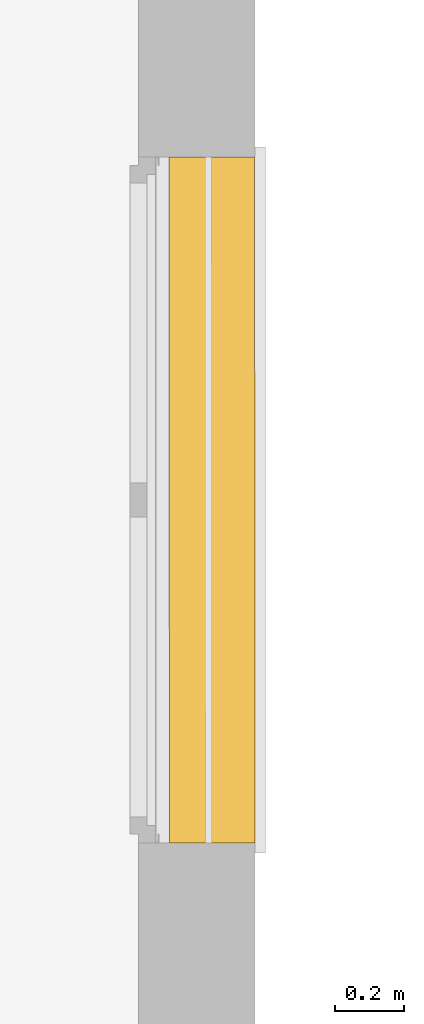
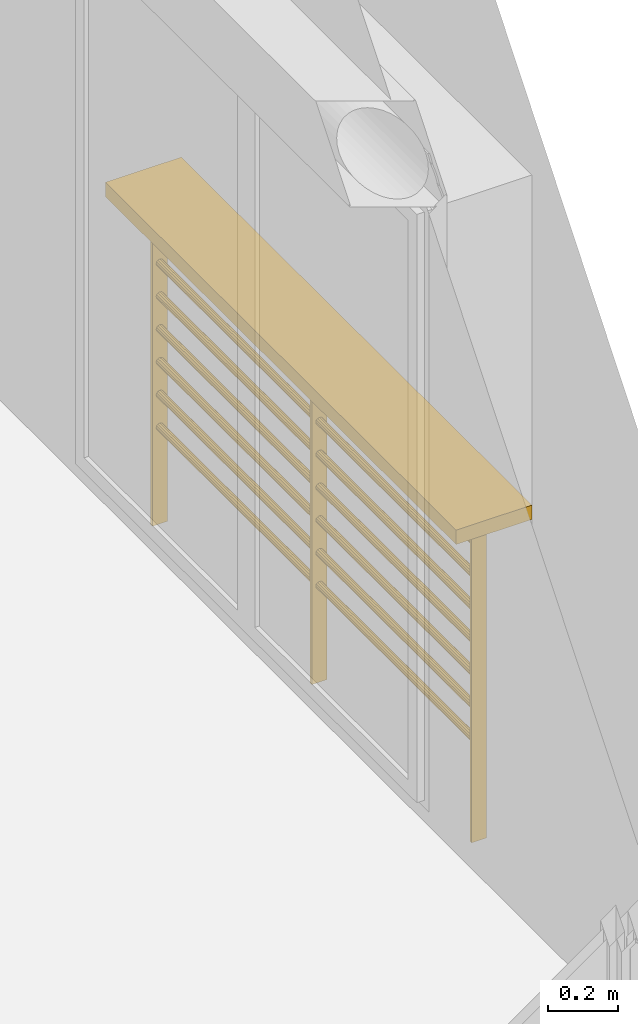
# One storey, part 96 of 164: 1 railing.
"""IFC2X3 building model written with IfcOpenShell, lengths in millimetres."""

from ifc_helpers import new_model, entity, si_unit, converted_unit, derived_unit, money_unit, direction, frame, origin_with_axes, place, context, subcontext, project, spatial, faceted_brep, source, transform, mapped, type_object, element, save


model = new_model("IFC2X3")

# Units and contexts
model_context = context("Model", 3, precision=0.01, world=origin_with_axes(), true_north=direction((0.0, 1.0)))
body_context = subcontext(model_context, "Body", "Model", "MODEL_VIEW")
ifc_project = project(units=[si_unit("LENGTHUNIT", "METRE", prefix="MILLI"), si_unit("AREAUNIT", "SQUARE_METRE"), si_unit("VOLUMEUNIT", "CUBIC_METRE"), converted_unit("PLANEANGLEUNIT", "DEGREE", entity("IfcPlaneAngleMeasure", 0.0174532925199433), si_unit("PLANEANGLEUNIT", "RADIAN"), dimensions=[0, 0, 0, 0, 0, 0, 0]), money_unit("USD"), converted_unit("TIMEUNIT", "Year", entity("IfcTimeMeasure", 31557600.0), si_unit("TIMEUNIT", "SECOND"), dimensions=[0, 0, 1, 0, 0, 0, 0]), si_unit("MASSUNIT", "GRAM", prefix="KILO"), si_unit("THERMODYNAMICTEMPERATUREUNIT", "DEGREE_CELSIUS"), si_unit("LUMINOUSINTENSITYUNIT", "LUMEN"), si_unit("ENERGYUNIT", "JOULE", prefix="MEGA"), derived_unit("THERMALCONDUCTANCEUNIT", [(si_unit("POWERUNIT", "WATT"), 1), (si_unit("LENGTHUNIT", "METRE"), -1), (si_unit("THERMODYNAMICTEMPERATUREUNIT", "KELVIN"), -1)]), derived_unit("SPECIFICHEATCAPACITYUNIT", [(si_unit("ENERGYUNIT", "JOULE"), 1), (si_unit("MASSUNIT", "GRAM", prefix="KILO"), -1), (si_unit("THERMODYNAMICTEMPERATUREUNIT", "KELVIN"), -1)]), derived_unit("MASSDENSITYUNIT", [(si_unit("MASSUNIT", "GRAM", prefix="KILO"), 1), (si_unit("VOLUMEUNIT", "CUBIC_METRE"), -1)])], contexts=[model_context])

# Site, building, storey
site_placement = place(None, origin_with_axes())
site = spatial("IfcSite", under=ifc_project, at=site_placement, Name="Site", CompositionType="ELEMENT")
building_placement = place(site_placement, origin_with_axes())
building = spatial("IfcBuilding", under=site, at=building_placement, Name="Bâtiment", CompositionType="ELEMENT")
storey_placement = place(building_placement, frame((0.0, 0.0, 5750.0), z_axis=(0.0, 0.0, 1.0), x_axis=(1.0, 0.0, 0.0)))
storey = spatial("IfcBuildingStorey", under=building, at=storey_placement, Name="Etage1", CompositionType="ELEMENT", Elevation=5750.0)

# Railing
railing_type = type_object("IfcRailingType", Name="Cadre avec câble 01 20", PredefinedType="NOTDEFINED")
shared_shape = source(origin_with_axes(), body_context, "Body", "Brep", [
    faceted_brep([(0.0, 125.0, 950.0), (0.0, 125.0, 1000.0), (0.0, -125.0, 1000.0), (0.0, -125.0, 950.0), (-1999.999999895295, 125.0, 950.0), (-1999.999999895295, 125.0, 1000.0), (-1999.999999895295, -125.0, 1000.0), (-1999.999999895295, -125.0, 950.0)], [[[0, 1, 2, 3]], [[4, 5, 1, 0]], [[1, 5, 6, 2]], [[3, 2, 6, 7]], [[0, 3, 7, 4]], [[7, 6, 5, 4]]]),
    faceted_brep([(-84.99999999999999, -25.0, -176.0), (-84.99999999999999, -25.0, 950.0), (-95.0, -25.0, 950.0), (-95.0, -25.0, -176.0), (-84.99999999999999, 25.0, -176.0), (-84.99999999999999, 25.0, 950.0), (-95.0, 25.0, 950.0), (-95.0, 25.0, -176.0)], [[[0, 1, 2, 3]], [[4, 5, 1, 0]], [[1, 5, 6, 2]], [[3, 2, 6, 7]], [[0, 3, 7, 4]], [[7, 6, 5, 4]]]),
    faceted_brep([(-994.9999999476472, -25.0, -176.0), (-994.9999999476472, -25.0, 950.0), (-1004.999999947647, -25.0, 950.0), (-1004.999999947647, -25.0, -176.0), (-994.9999999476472, 25.0, -176.0), (-994.9999999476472, 25.0, 950.0), (-1004.999999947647, 25.0, 950.0), (-1004.999999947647, 25.0, -176.0)], [[[0, 1, 2, 3]], [[4, 5, 1, 0]], [[1, 5, 6, 2]], [[3, 2, 6, 7]], [[0, 3, 7, 4]], [[7, 6, 5, 4]]]),
    faceted_brep([(-1904.999999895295, -25.0, -176.0), (-1904.999999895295, -25.0, 950.0), (-1914.999999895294, -25.0, 950.0), (-1914.999999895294, -25.0, -176.0), (-1904.999999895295, 25.0, -176.0), (-1904.999999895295, 25.0, 950.0), (-1914.999999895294, 25.0, 950.0), (-1914.999999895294, 25.0, -176.0)], [[[0, 1, 2, 3]], [[4, 5, 1, 0]], [[1, 5, 6, 2]], [[3, 2, 6, 7]], [[0, 3, 7, 4]], [[7, 6, 5, 4]]]),
    faceted_brep([(-994.9999999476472, 10.82531754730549, 168.7500000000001), (-95.0, 10.82531754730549, 168.75), (-95.0, 12.5, 162.5), (-994.9999999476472, 12.5, 162.5000000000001), (-994.9999999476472, 6.250000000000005, 173.3253175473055), (-95.0, 6.250000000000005, 173.3253175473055), (-95.0, 0.0, 175.0), (-95.0, -6.249999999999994, 173.3253175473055), (-95.0, -10.82531754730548, 168.75), (-95.0, -12.5, 162.5), (-95.0, -10.82531754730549, 156.25), (-95.0, -6.250000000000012, 151.6746824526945), (-95.0, 0.0, 150.0), (-95.0, 6.249999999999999, 151.6746824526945), (-95.0, 10.82531754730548, 156.25), (-994.9999999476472, 10.82531754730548, 156.2500000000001), (-994.9999999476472, 6.249999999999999, 151.6746824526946), (-994.9999999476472, 0.0, 150.0000000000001), (-994.9999999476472, -6.250000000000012, 151.6746824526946), (-994.9999999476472, -10.82531754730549, 156.2500000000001), (-994.9999999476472, -12.5, 162.5000000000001), (-994.9999999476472, -10.82531754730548, 168.7500000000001), (-994.9999999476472, -6.249999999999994, 173.3253175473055), (-994.9999999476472, 0.0, 175.0000000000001)], [[[0, 1, 2, 3]], [[4, 5, 1, 0]], [[1, 5, 6, 7, 8, 9, 10, 11, 12, 13, 14, 2]], [[3, 2, 14, 15]], [[15, 16, 17, 18, 19, 20, 21, 22, 23, 4, 0, 3]], [[23, 6, 5, 4]], [[22, 7, 6, 23]], [[21, 8, 7, 22]], [[20, 9, 8, 21]], [[19, 10, 9, 20]], [[18, 11, 10, 19]], [[17, 12, 11, 18]], [[16, 13, 12, 17]], [[15, 14, 13, 16]]]),
    faceted_brep([(-1004.999999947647, 10.82531754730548, 156.2500000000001), (-1904.999999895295, 10.82531754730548, 156.2500000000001), (-1904.999999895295, 12.5, 162.5000000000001), (-1004.999999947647, 12.5, 162.5000000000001), (-1004.999999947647, 6.249999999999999, 151.6746824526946), (-1904.999999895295, 6.249999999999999, 151.6746824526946), (-1904.999999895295, 0.0, 150.0000000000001), (-1904.999999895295, -6.250000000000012, 151.6746824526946), (-1904.999999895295, -10.82531754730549, 156.2500000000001), (-1904.999999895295, -12.5, 162.5000000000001), (-1904.999999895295, -10.82531754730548, 168.7500000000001), (-1904.999999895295, -6.249999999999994, 173.3253175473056), (-1904.999999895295, 0.0, 175.0000000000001), (-1904.999999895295, 6.250000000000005, 173.3253175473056), (-1904.999999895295, 10.82531754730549, 168.7500000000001), (-1004.999999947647, 10.82531754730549, 168.7500000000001), (-1004.999999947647, 6.250000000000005, 173.3253175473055), (-1004.999999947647, 0.0, 175.0000000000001), (-1004.999999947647, -6.249999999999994, 173.3253175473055), (-1004.999999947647, -10.82531754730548, 168.7500000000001), (-1004.999999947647, -12.5, 162.5000000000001), (-1004.999999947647, -10.82531754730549, 156.2500000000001), (-1004.999999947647, -6.250000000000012, 151.6746824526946), (-1004.999999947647, 0.0, 150.0000000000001)], [[[0, 1, 2, 3]], [[4, 5, 1, 0]], [[1, 5, 6, 7, 8, 9, 10, 11, 12, 13, 14, 2]], [[3, 2, 14, 15]], [[15, 16, 17, 18, 19, 20, 21, 22, 23, 4, 0, 3]], [[23, 6, 5, 4]], [[22, 7, 6, 23]], [[21, 8, 7, 22]], [[20, 9, 8, 21]], [[19, 10, 9, 20]], [[18, 11, 10, 19]], [[17, 12, 11, 18]], [[16, 13, 12, 17]], [[15, 14, 13, 16]]]),
    faceted_brep([(-994.9999999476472, 10.82531754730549, 283.0357142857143), (-95.0, 10.82531754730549, 283.0357142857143), (-95.0, 12.5, 276.7857142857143), (-994.9999999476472, 12.5, 276.7857142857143), (-994.9999999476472, 6.250000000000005, 287.6110318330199), (-95.0, 6.250000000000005, 287.6110318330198), (-95.0, 0.0, 289.2857142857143), (-95.0, -6.249999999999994, 287.6110318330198), (-95.0, -10.82531754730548, 283.0357142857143), (-95.0, -12.5, 276.7857142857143), (-95.0, -10.82531754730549, 270.5357142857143), (-95.0, -6.250000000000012, 265.9603967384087), (-95.0, 0.0, 264.2857142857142), (-95.0, 6.249999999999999, 265.9603967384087), (-95.0, 10.82531754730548, 270.5357142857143), (-994.9999999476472, 10.82531754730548, 270.5357142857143), (-994.9999999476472, 6.249999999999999, 265.9603967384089), (-994.9999999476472, 0.0, 264.2857142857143), (-994.9999999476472, -6.250000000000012, 265.9603967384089), (-994.9999999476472, -10.82531754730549, 270.5357142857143), (-994.9999999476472, -12.5, 276.7857142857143), (-994.9999999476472, -10.82531754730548, 283.0357142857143), (-994.9999999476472, -6.249999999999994, 287.6110318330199), (-994.9999999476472, 0.0, 289.2857142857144)], [[[0, 1, 2, 3]], [[4, 5, 1, 0]], [[1, 5, 6, 7, 8, 9, 10, 11, 12, 13, 14, 2]], [[3, 2, 14, 15]], [[15, 16, 17, 18, 19, 20, 21, 22, 23, 4, 0, 3]], [[23, 6, 5, 4]], [[22, 7, 6, 23]], [[21, 8, 7, 22]], [[20, 9, 8, 21]], [[19, 10, 9, 20]], [[18, 11, 10, 19]], [[17, 12, 11, 18]], [[16, 13, 12, 17]], [[15, 14, 13, 16]]]),
    faceted_brep([(-1004.999999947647, 10.82531754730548, 270.5357142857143), (-1904.999999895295, 10.82531754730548, 270.5357142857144), (-1904.999999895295, 12.5, 276.7857142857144), (-1004.999999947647, 12.5, 276.7857142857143), (-1004.999999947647, 6.249999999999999, 265.9603967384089), (-1904.999999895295, 6.249999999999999, 265.9603967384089), (-1904.999999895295, 0.0, 264.2857142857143), (-1904.999999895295, -6.250000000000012, 265.9603967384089), (-1904.999999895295, -10.82531754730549, 270.5357142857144), (-1904.999999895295, -12.5, 276.7857142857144), (-1904.999999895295, -10.82531754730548, 283.0357142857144), (-1904.999999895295, -6.249999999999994, 287.6110318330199), (-1904.999999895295, 0.0, 289.2857142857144), (-1904.999999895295, 6.250000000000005, 287.6110318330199), (-1904.999999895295, 10.82531754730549, 283.0357142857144), (-1004.999999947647, 10.82531754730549, 283.0357142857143), (-1004.999999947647, 6.250000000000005, 287.6110318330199), (-1004.999999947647, 0.0, 289.2857142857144), (-1004.999999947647, -6.249999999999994, 287.6110318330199), (-1004.999999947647, -10.82531754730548, 283.0357142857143), (-1004.999999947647, -12.5, 276.7857142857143), (-1004.999999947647, -10.82531754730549, 270.5357142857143), (-1004.999999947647, -6.250000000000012, 265.9603967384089), (-1004.999999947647, 0.0, 264.2857142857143)], [[[0, 1, 2, 3]], [[4, 5, 1, 0]], [[1, 5, 6, 7, 8, 9, 10, 11, 12, 13, 14, 2]], [[3, 2, 14, 15]], [[15, 16, 17, 18, 19, 20, 21, 22, 23, 4, 0, 3]], [[23, 6, 5, 4]], [[22, 7, 6, 23]], [[21, 8, 7, 22]], [[20, 9, 8, 21]], [[19, 10, 9, 20]], [[18, 11, 10, 19]], [[17, 12, 11, 18]], [[16, 13, 12, 17]], [[15, 14, 13, 16]]]),
    faceted_brep([(-994.9999999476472, 10.82531754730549, 397.3214285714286), (-95.0, 10.82531754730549, 397.3214285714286), (-95.0, 12.5, 391.0714285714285), (-994.9999999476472, 12.5, 391.0714285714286), (-994.9999999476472, 6.250000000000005, 401.896746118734), (-95.0, 6.250000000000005, 401.896746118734), (-95.0, 0.0, 403.5714285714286), (-95.0, -6.249999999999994, 401.896746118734), (-95.0, -10.82531754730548, 397.3214285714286), (-95.0, -12.5, 391.0714285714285), (-95.0, -10.82531754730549, 384.8214285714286), (-95.0, -6.250000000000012, 380.2461110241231), (-95.0, 0.0, 378.5714285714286), (-95.0, 6.249999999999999, 380.2461110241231), (-95.0, 10.82531754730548, 384.8214285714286), (-994.9999999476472, 10.82531754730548, 384.8214285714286), (-994.9999999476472, 6.249999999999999, 380.2461110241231), (-994.9999999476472, 0.0, 378.5714285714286), (-994.9999999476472, -6.250000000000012, 380.2461110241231), (-994.9999999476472, -10.82531754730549, 384.8214285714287), (-994.9999999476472, -12.5, 391.0714285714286), (-994.9999999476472, -10.82531754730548, 397.3214285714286), (-994.9999999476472, -6.249999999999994, 401.896746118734), (-994.9999999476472, 0.0, 403.5714285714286)], [[[0, 1, 2, 3]], [[4, 5, 1, 0]], [[1, 5, 6, 7, 8, 9, 10, 11, 12, 13, 14, 2]], [[3, 2, 14, 15]], [[15, 16, 17, 18, 19, 20, 21, 22, 23, 4, 0, 3]], [[23, 6, 5, 4]], [[22, 7, 6, 23]], [[21, 8, 7, 22]], [[20, 9, 8, 21]], [[19, 10, 9, 20]], [[18, 11, 10, 19]], [[17, 12, 11, 18]], [[16, 13, 12, 17]], [[15, 14, 13, 16]]]),
    faceted_brep([(-1004.999999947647, 10.82531754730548, 384.8214285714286), (-1904.999999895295, 10.82531754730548, 384.8214285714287), (-1904.999999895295, 12.5, 391.0714285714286), (-1004.999999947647, 12.5, 391.0714285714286), (-1004.999999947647, 6.249999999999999, 380.2461110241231), (-1904.999999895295, 6.249999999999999, 380.2461110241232), (-1904.999999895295, 0.0, 378.5714285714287), (-1904.999999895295, -6.250000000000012, 380.2461110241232), (-1904.999999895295, -10.82531754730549, 384.8214285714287), (-1904.999999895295, -12.5, 391.0714285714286), (-1904.999999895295, -10.82531754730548, 397.3214285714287), (-1904.999999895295, -6.249999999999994, 401.8967461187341), (-1904.999999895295, 0.0, 403.5714285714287), (-1904.999999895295, 6.250000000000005, 401.8967461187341), (-1904.999999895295, 10.82531754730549, 397.3214285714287), (-1004.999999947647, 10.82531754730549, 397.3214285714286), (-1004.999999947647, 6.250000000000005, 401.896746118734), (-1004.999999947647, 0.0, 403.5714285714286), (-1004.999999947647, -6.249999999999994, 401.896746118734), (-1004.999999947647, -10.82531754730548, 397.3214285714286), (-1004.999999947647, -12.5, 391.0714285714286), (-1004.999999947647, -10.82531754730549, 384.8214285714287), (-1004.999999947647, -6.250000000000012, 380.2461110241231), (-1004.999999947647, 0.0, 378.5714285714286)], [[[0, 1, 2, 3]], [[4, 5, 1, 0]], [[1, 5, 6, 7, 8, 9, 10, 11, 12, 13, 14, 2]], [[3, 2, 14, 15]], [[15, 16, 17, 18, 19, 20, 21, 22, 23, 4, 0, 3]], [[23, 6, 5, 4]], [[22, 7, 6, 23]], [[21, 8, 7, 22]], [[20, 9, 8, 21]], [[19, 10, 9, 20]], [[18, 11, 10, 19]], [[17, 12, 11, 18]], [[16, 13, 12, 17]], [[15, 14, 13, 16]]]),
    faceted_brep([(-994.9999999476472, 10.82531754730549, 511.6071428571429), (-95.0, 10.82531754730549, 511.6071428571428), (-95.0, 12.5, 505.3571428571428), (-994.9999999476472, 12.5, 505.3571428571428), (-994.9999999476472, 6.250000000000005, 516.1824604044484), (-95.0, 6.250000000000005, 516.1824604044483), (-95.0, 0.0, 517.8571428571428), (-95.0, -6.249999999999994, 516.1824604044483), (-95.0, -10.82531754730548, 511.6071428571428), (-95.0, -12.5, 505.3571428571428), (-95.0, -10.82531754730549, 499.1071428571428), (-95.0, -6.250000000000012, 494.5318253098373), (-95.0, 0.0, 492.8571428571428), (-95.0, 6.249999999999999, 494.5318253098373), (-95.0, 10.82531754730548, 499.1071428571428), (-994.9999999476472, 10.82531754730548, 499.1071428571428), (-994.9999999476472, 6.249999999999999, 494.5318253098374), (-994.9999999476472, 0.0, 492.8571428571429), (-994.9999999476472, -6.250000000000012, 494.5318253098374), (-994.9999999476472, -10.82531754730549, 499.1071428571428), (-994.9999999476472, -12.5, 505.3571428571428), (-994.9999999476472, -10.82531754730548, 511.6071428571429), (-994.9999999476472, -6.249999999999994, 516.1824604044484), (-994.9999999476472, 0.0, 517.8571428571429)], [[[0, 1, 2, 3]], [[4, 5, 1, 0]], [[1, 5, 6, 7, 8, 9, 10, 11, 12, 13, 14, 2]], [[3, 2, 14, 15]], [[15, 16, 17, 18, 19, 20, 21, 22, 23, 4, 0, 3]], [[23, 6, 5, 4]], [[22, 7, 6, 23]], [[21, 8, 7, 22]], [[20, 9, 8, 21]], [[19, 10, 9, 20]], [[18, 11, 10, 19]], [[17, 12, 11, 18]], [[16, 13, 12, 17]], [[15, 14, 13, 16]]]),
    faceted_brep([(-1004.999999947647, 10.82531754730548, 499.1071428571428), (-1904.999999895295, 10.82531754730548, 499.1071428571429), (-1904.999999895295, 12.5, 505.3571428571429), (-1004.999999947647, 12.5, 505.3571428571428), (-1004.999999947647, 6.249999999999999, 494.5318253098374), (-1904.999999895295, 6.249999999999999, 494.5318253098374), (-1904.999999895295, 0.0, 492.8571428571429), (-1904.999999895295, -6.250000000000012, 494.5318253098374), (-1904.999999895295, -10.82531754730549, 499.1071428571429), (-1904.999999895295, -12.5, 505.3571428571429), (-1904.999999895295, -10.82531754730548, 511.6071428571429), (-1904.999999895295, -6.249999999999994, 516.1824604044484), (-1904.999999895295, 0.0, 517.8571428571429), (-1904.999999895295, 6.250000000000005, 516.1824604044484), (-1904.999999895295, 10.82531754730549, 511.6071428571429), (-1004.999999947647, 10.82531754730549, 511.6071428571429), (-1004.999999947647, 6.250000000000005, 516.1824604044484), (-1004.999999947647, 0.0, 517.8571428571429), (-1004.999999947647, -6.249999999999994, 516.1824604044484), (-1004.999999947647, -10.82531754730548, 511.6071428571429), (-1004.999999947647, -12.5, 505.3571428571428), (-1004.999999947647, -10.82531754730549, 499.1071428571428), (-1004.999999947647, -6.250000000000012, 494.5318253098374), (-1004.999999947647, 0.0, 492.8571428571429)], [[[0, 1, 2, 3]], [[4, 5, 1, 0]], [[1, 5, 6, 7, 8, 9, 10, 11, 12, 13, 14, 2]], [[3, 2, 14, 15]], [[15, 16, 17, 18, 19, 20, 21, 22, 23, 4, 0, 3]], [[23, 6, 5, 4]], [[22, 7, 6, 23]], [[21, 8, 7, 22]], [[20, 9, 8, 21]], [[19, 10, 9, 20]], [[18, 11, 10, 19]], [[17, 12, 11, 18]], [[16, 13, 12, 17]], [[15, 14, 13, 16]]]),
    faceted_brep([(-994.9999999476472, 10.82531754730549, 625.8928571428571), (-95.0, 10.82531754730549, 625.892857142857), (-95.0, 12.5, 619.642857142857), (-994.9999999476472, 12.5, 619.6428571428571), (-994.9999999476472, 6.250000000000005, 630.4681746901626), (-95.0, 6.250000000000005, 630.4681746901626), (-95.0, 0.0, 632.1428571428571), (-95.0, -6.249999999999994, 630.4681746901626), (-95.0, -10.82531754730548, 625.892857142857), (-95.0, -12.5, 619.642857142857), (-95.0, -10.82531754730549, 613.3928571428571), (-95.0, -6.250000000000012, 608.8175395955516), (-95.0, 0.0, 607.1428571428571), (-95.0, 6.249999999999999, 608.8175395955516), (-95.0, 10.82531754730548, 613.3928571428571), (-994.9999999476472, 10.82531754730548, 613.3928571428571), (-994.9999999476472, 6.249999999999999, 608.8175395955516), (-994.9999999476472, 0.0, 607.1428571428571), (-994.9999999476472, -6.250000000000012, 608.8175395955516), (-994.9999999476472, -10.82531754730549, 613.3928571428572), (-994.9999999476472, -12.5, 619.6428571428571), (-994.9999999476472, -10.82531754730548, 625.8928571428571), (-994.9999999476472, -6.249999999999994, 630.4681746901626), (-994.9999999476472, 0.0, 632.1428571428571)], [[[0, 1, 2, 3]], [[4, 5, 1, 0]], [[1, 5, 6, 7, 8, 9, 10, 11, 12, 13, 14, 2]], [[3, 2, 14, 15]], [[15, 16, 17, 18, 19, 20, 21, 22, 23, 4, 0, 3]], [[23, 6, 5, 4]], [[22, 7, 6, 23]], [[21, 8, 7, 22]], [[20, 9, 8, 21]], [[19, 10, 9, 20]], [[18, 11, 10, 19]], [[17, 12, 11, 18]], [[16, 13, 12, 17]], [[15, 14, 13, 16]]]),
    faceted_brep([(-1004.999999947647, 10.82531754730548, 613.3928571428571), (-1904.999999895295, 10.82531754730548, 613.3928571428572), (-1904.999999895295, 12.5, 619.6428571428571), (-1004.999999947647, 12.5, 619.6428571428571), (-1004.999999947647, 6.249999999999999, 608.8175395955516), (-1904.999999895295, 6.249999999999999, 608.8175395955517), (-1904.999999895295, 0.0, 607.1428571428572), (-1904.999999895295, -6.250000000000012, 608.8175395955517), (-1904.999999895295, -10.82531754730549, 613.3928571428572), (-1904.999999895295, -12.5, 619.6428571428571), (-1904.999999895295, -10.82531754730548, 625.8928571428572), (-1904.999999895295, -6.249999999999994, 630.4681746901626), (-1904.999999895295, 0.0, 632.1428571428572), (-1904.999999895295, 6.250000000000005, 630.4681746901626), (-1904.999999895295, 10.82531754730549, 625.8928571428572), (-1004.999999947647, 10.82531754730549, 625.8928571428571), (-1004.999999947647, 6.250000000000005, 630.4681746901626), (-1004.999999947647, 0.0, 632.1428571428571), (-1004.999999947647, -6.249999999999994, 630.4681746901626), (-1004.999999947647, -10.82531754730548, 625.8928571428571), (-1004.999999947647, -12.5, 619.6428571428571), (-1004.999999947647, -10.82531754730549, 613.3928571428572), (-1004.999999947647, -6.250000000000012, 608.8175395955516), (-1004.999999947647, 0.0, 607.1428571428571)], [[[0, 1, 2, 3]], [[4, 5, 1, 0]], [[1, 5, 6, 7, 8, 9, 10, 11, 12, 13, 14, 2]], [[3, 2, 14, 15]], [[15, 16, 17, 18, 19, 20, 21, 22, 23, 4, 0, 3]], [[23, 6, 5, 4]], [[22, 7, 6, 23]], [[21, 8, 7, 22]], [[20, 9, 8, 21]], [[19, 10, 9, 20]], [[18, 11, 10, 19]], [[17, 12, 11, 18]], [[16, 13, 12, 17]], [[15, 14, 13, 16]]]),
    faceted_brep([(-994.9999999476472, 10.82531754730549, 740.1785714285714), (-95.0, 10.82531754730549, 740.1785714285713), (-95.0, 12.5, 733.9285714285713), (-994.9999999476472, 12.5, 733.9285714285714), (-994.9999999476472, 6.250000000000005, 744.7538889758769), (-95.0, 6.250000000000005, 744.7538889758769), (-95.0, 0.0, 746.4285714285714), (-95.0, -6.249999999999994, 744.7538889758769), (-95.0, -10.82531754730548, 740.1785714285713), (-95.0, -12.5, 733.9285714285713), (-95.0, -10.82531754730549, 727.6785714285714), (-95.0, -6.250000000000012, 723.1032538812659), (-95.0, 0.0, 721.4285714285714), (-95.0, 6.249999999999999, 723.1032538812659), (-95.0, 10.82531754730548, 727.6785714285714), (-994.9999999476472, 10.82531754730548, 727.6785714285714), (-994.9999999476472, 6.249999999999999, 723.1032538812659), (-994.9999999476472, 0.0, 721.4285714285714), (-994.9999999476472, -6.250000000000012, 723.1032538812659), (-994.9999999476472, -10.82531754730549, 727.6785714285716), (-994.9999999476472, -12.5, 733.9285714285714), (-994.9999999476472, -10.82531754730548, 740.1785714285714), (-994.9999999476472, -6.249999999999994, 744.7538889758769), (-994.9999999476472, 0.0, 746.4285714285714)], [[[0, 1, 2, 3]], [[4, 5, 1, 0]], [[1, 5, 6, 7, 8, 9, 10, 11, 12, 13, 14, 2]], [[3, 2, 14, 15]], [[15, 16, 17, 18, 19, 20, 21, 22, 23, 4, 0, 3]], [[23, 6, 5, 4]], [[22, 7, 6, 23]], [[21, 8, 7, 22]], [[20, 9, 8, 21]], [[19, 10, 9, 20]], [[18, 11, 10, 19]], [[17, 12, 11, 18]], [[16, 13, 12, 17]], [[15, 14, 13, 16]]]),
    faceted_brep([(-1004.999999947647, 10.82531754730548, 727.6785714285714), (-1904.999999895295, 10.82531754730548, 727.6785714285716), (-1904.999999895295, 12.5, 733.9285714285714), (-1004.999999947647, 12.5, 733.9285714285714), (-1004.999999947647, 6.249999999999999, 723.1032538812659), (-1904.999999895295, 6.249999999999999, 723.103253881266), (-1904.999999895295, 0.0, 721.4285714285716), (-1904.999999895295, -6.250000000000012, 723.103253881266), (-1904.999999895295, -10.82531754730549, 727.6785714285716), (-1904.999999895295, -12.5, 733.9285714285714), (-1904.999999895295, -10.82531754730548, 740.1785714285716), (-1904.999999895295, -6.249999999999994, 744.753888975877), (-1904.999999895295, 0.0, 746.4285714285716), (-1904.999999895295, 6.250000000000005, 744.753888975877), (-1904.999999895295, 10.82531754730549, 740.1785714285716), (-1004.999999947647, 10.82531754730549, 740.1785714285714), (-1004.999999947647, 6.250000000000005, 744.7538889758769), (-1004.999999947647, 0.0, 746.4285714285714), (-1004.999999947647, -6.249999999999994, 744.7538889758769), (-1004.999999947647, -10.82531754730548, 740.1785714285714), (-1004.999999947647, -12.5, 733.9285714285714), (-1004.999999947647, -10.82531754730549, 727.6785714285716), (-1004.999999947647, -6.250000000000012, 723.1032538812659), (-1004.999999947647, 0.0, 721.4285714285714)], [[[0, 1, 2, 3]], [[4, 5, 1, 0]], [[1, 5, 6, 7, 8, 9, 10, 11, 12, 13, 14, 2]], [[3, 2, 14, 15]], [[15, 16, 17, 18, 19, 20, 21, 22, 23, 4, 0, 3]], [[23, 6, 5, 4]], [[22, 7, 6, 23]], [[21, 8, 7, 22]], [[20, 9, 8, 21]], [[19, 10, 9, 20]], [[18, 11, 10, 19]], [[17, 12, 11, 18]], [[16, 13, 12, 17]], [[15, 14, 13, 16]]]),
    faceted_brep([(-994.9999999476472, 10.82531754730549, 854.4642857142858), (-95.0, 10.82531754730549, 854.4642857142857), (-95.0, 12.5, 848.2142857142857), (-994.9999999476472, 12.5, 848.2142857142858), (-994.9999999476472, 6.250000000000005, 859.0396032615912), (-95.0, 6.250000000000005, 859.0396032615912), (-95.0, 0.0, 860.7142857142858), (-95.0, -6.249999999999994, 859.0396032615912), (-95.0, -10.82531754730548, 854.4642857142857), (-95.0, -12.5, 848.2142857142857), (-95.0, -10.82531754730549, 841.9642857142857), (-95.0, -6.250000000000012, 837.3889681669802), (-95.0, 0.0, 835.7142857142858), (-95.0, 6.249999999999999, 837.3889681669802), (-95.0, 10.82531754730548, 841.9642857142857), (-994.9999999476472, 10.82531754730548, 841.9642857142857), (-994.9999999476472, 6.249999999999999, 837.3889681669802), (-994.9999999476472, 0.0, 835.7142857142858), (-994.9999999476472, -6.250000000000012, 837.3889681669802), (-994.9999999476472, -10.82531754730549, 841.9642857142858), (-994.9999999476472, -12.5, 848.2142857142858), (-994.9999999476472, -10.82531754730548, 854.4642857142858), (-994.9999999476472, -6.249999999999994, 859.0396032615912), (-994.9999999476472, 0.0, 860.7142857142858)], [[[0, 1, 2, 3]], [[4, 5, 1, 0]], [[1, 5, 6, 7, 8, 9, 10, 11, 12, 13, 14, 2]], [[3, 2, 14, 15]], [[15, 16, 17, 18, 19, 20, 21, 22, 23, 4, 0, 3]], [[23, 6, 5, 4]], [[22, 7, 6, 23]], [[21, 8, 7, 22]], [[20, 9, 8, 21]], [[19, 10, 9, 20]], [[18, 11, 10, 19]], [[17, 12, 11, 18]], [[16, 13, 12, 17]], [[15, 14, 13, 16]]]),
    faceted_brep([(-1004.999999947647, 10.82531754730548, 841.9642857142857), (-1904.999999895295, 10.82531754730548, 841.9642857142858), (-1904.999999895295, 12.5, 848.2142857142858), (-1004.999999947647, 12.5, 848.2142857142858), (-1004.999999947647, 6.249999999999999, 837.3889681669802), (-1904.999999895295, 6.249999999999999, 837.3889681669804), (-1904.999999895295, 0.0, 835.7142857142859), (-1904.999999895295, -6.250000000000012, 837.3889681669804), (-1904.999999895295, -10.82531754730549, 841.9642857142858), (-1904.999999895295, -12.5, 848.2142857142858), (-1904.999999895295, -10.82531754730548, 854.4642857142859), (-1904.999999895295, -6.249999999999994, 859.0396032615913), (-1904.999999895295, 0.0, 860.7142857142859), (-1904.999999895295, 6.250000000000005, 859.0396032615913), (-1904.999999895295, 10.82531754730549, 854.4642857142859), (-1004.999999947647, 10.82531754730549, 854.4642857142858), (-1004.999999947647, 6.250000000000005, 859.0396032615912), (-1004.999999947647, 0.0, 860.7142857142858), (-1004.999999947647, -6.249999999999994, 859.0396032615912), (-1004.999999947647, -10.82531754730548, 854.4642857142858), (-1004.999999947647, -12.5, 848.2142857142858), (-1004.999999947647, -10.82531754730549, 841.9642857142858), (-1004.999999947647, -6.250000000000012, 837.3889681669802), (-1004.999999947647, 0.0, 835.7142857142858)], [[[0, 1, 2, 3]], [[4, 5, 1, 0]], [[1, 5, 6, 7, 8, 9, 10, 11, 12, 13, 14, 2]], [[3, 2, 14, 15]], [[15, 16, 17, 18, 19, 20, 21, 22, 23, 4, 0, 3]], [[23, 6, 5, 4]], [[22, 7, 6, 23]], [[21, 8, 7, 22]], [[20, 9, 8, 21]], [[19, 10, 9, 20]], [[18, 11, 10, 19]], [[17, 12, 11, 18]], [[16, 13, 12, 17]], [[15, 14, 13, 16]]]),
])
railing_placement = place(storey_placement, frame((2234231.671336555, -639413.4435575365, 0.0), z_axis=(0.0, 0.0, 1.0), x_axis=(0.0007973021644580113, -0.9999996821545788, 0.0)))
element("IfcRailing", 1, at=railing_placement, inside=storey, type_object=railing_type, Name="Obj.-002", PredefinedType="NOTDEFINED", context=body_context, shape_type="MappedRepresentation", body=[
    mapped(shared_shape, transform((0.0, 0.0, 0.0))),
])

save(model, "model.ifc")
